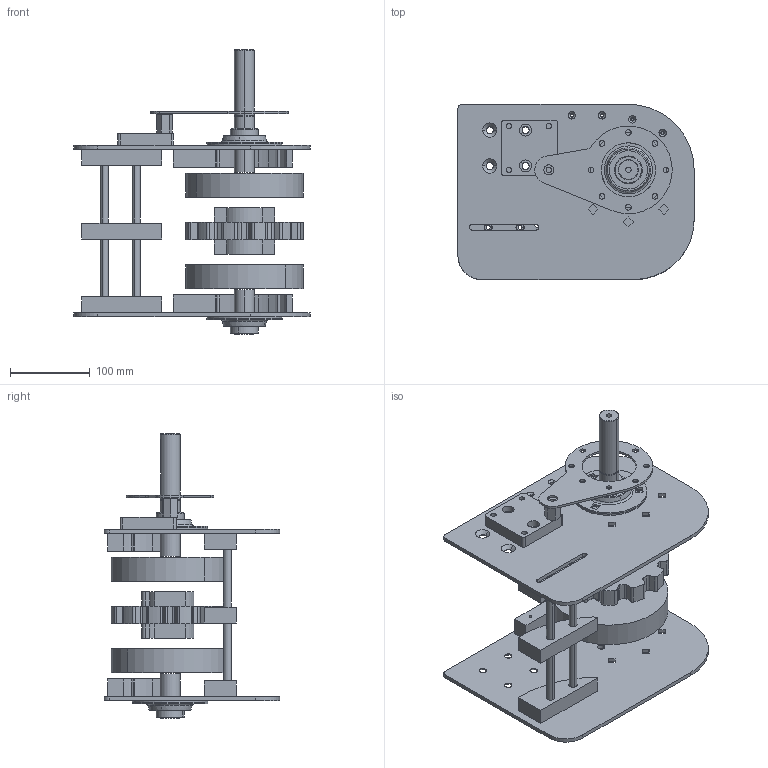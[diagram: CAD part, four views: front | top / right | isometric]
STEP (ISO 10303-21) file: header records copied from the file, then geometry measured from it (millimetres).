
FILE_DESCRIPTION (( 'STEP AP203' ), '1' );
FILE_NAME ('2000.750.149.STEP', '2016-01-13T13:39:57', ( 'SICO-SERVICE' ), ( 'Hewlett-Packard Company' ), 'SwSTEP 2.0', 'SolidWorks 2016', '' );
FILE_SCHEMA (( 'CONFIG_CONTROL_DESIGN' ));
Length unit declared in the file: millimetre
Products named in the file (1): 2000.750.149
Bounding box: 296.5 x 220 x 357 mm (x, y, z)
Surface area: 545702.2 mm2 (no closed solid volume)
Topology: 0 solids, 25 shells, 543 faces, 1535 edges, 1027 vertices
Faces by surface type: cylinder 273, plane 204, cone 46, torus 12, sphere 8
Entity records: 18095 total; most frequent: DIRECTION 3298, CARTESIAN_POINT 3262, ORIENTED_EDGE 2818, EDGE_CURVE 1527, AXIS2_PLACEMENT_3D 1243, VERTEX_POINT 1023, LINE 812, VECTOR 812
